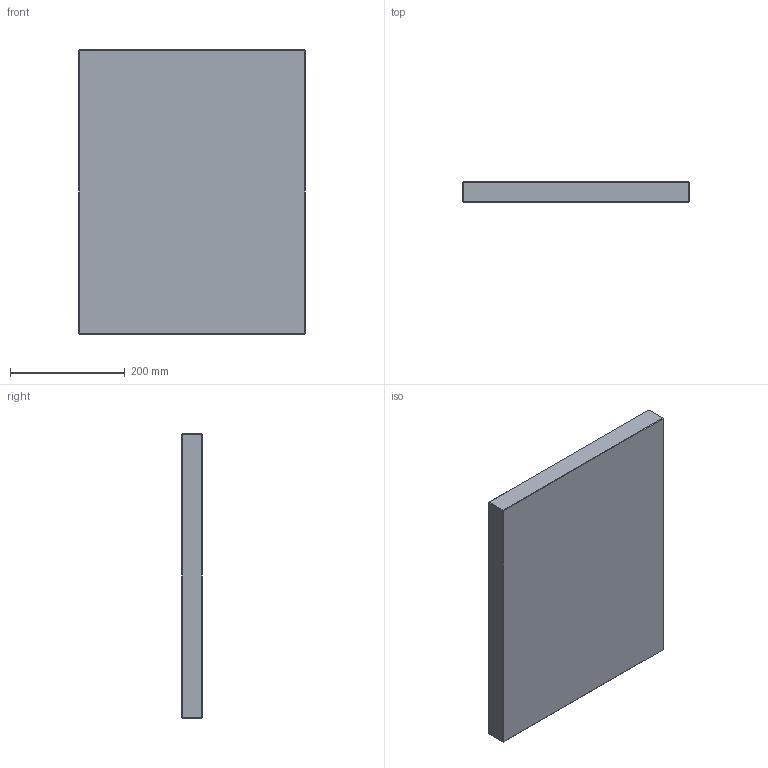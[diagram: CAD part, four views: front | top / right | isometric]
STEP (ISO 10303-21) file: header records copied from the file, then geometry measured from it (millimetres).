
FILE_DESCRIPTION (( 'STEP AP214' ), '1' );
FILE_NAME ('PC-P-396x496x36.STEP', '2020-04-01T10:39:57', ( 'August' ), ( '' ), 'SwSTEP 2.0', 'SolidWorks 2018', '' );
FILE_SCHEMA (( 'AUTOMOTIVE_DESIGN' ));
Length unit declared in the file: millimetre
Products named in the file (1): PC-P-396x496x36
Bounding box: 396 x 36 x 496 mm (x, y, z)
Volume: 7069125.3 mm3; surface area: 454878.5 mm2
Topology: 1 solids, 1 shells, 26 faces, 48 edges, 24 vertices
Faces by surface type: plane 26
Entity records: 634 total; most frequent: DIRECTION 102, CARTESIAN_POINT 99, ORIENTED_EDGE 96, EDGE_CURVE 48, VECTOR 48, LINE 48, AXIS2_PLACEMENT_3D 27, FACE_OUTER_BOUND 26
